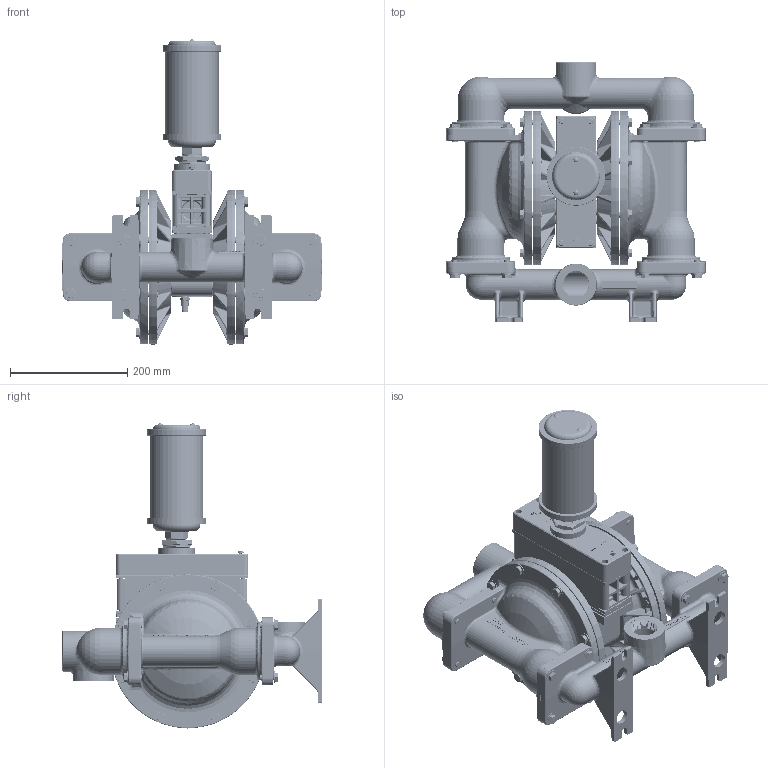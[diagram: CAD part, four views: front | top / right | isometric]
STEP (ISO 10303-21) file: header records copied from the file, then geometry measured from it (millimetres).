
FILE_DESCRIPTION((''),'2;1');
FILE_NAME('PS400_ADV_SS_DROP_IN__SW0001','2013-06-10T',('Bill.Watson'),(''),'PRO/ENGINEER BY PARAMETRIC TECHNOLOGY CORPORATION, 2011180','PRO/ENGINEER BY PARAMETRIC TECHNOLOGY CORPORATION, 2011180','');
FILE_SCHEMA(('CONFIG_CONTROL_DESIGN'));
Length unit declared in the file: inch
Products named in the file (1): PS400_ADV_SS_DROP_IN__SW0001
Bounding box: 443.47 x 443.33 x 521.16 mm (x, y, z)
Volume: 7973229.8 mm3; surface area: 1823580.5 mm2
Topology: 4 solids, 12 shells, 18873 faces, 49764 edges, 31483 vertices
Faces by surface type: plane 11553, bspline 2408, cylinder 2019, torus 1318, cone 1063, sphere 442, extrusion 70
Entity records: 1047936 total; most frequent: CARTESIAN_POINT 599678, ORIENTED_EDGE 99072, DIRECTION 84445, EDGE_CURVE 49536, VECTOR 32873, LINE 32803, VERTEX_POINT 31483, AXIS2_PLACEMENT_3D 25786
